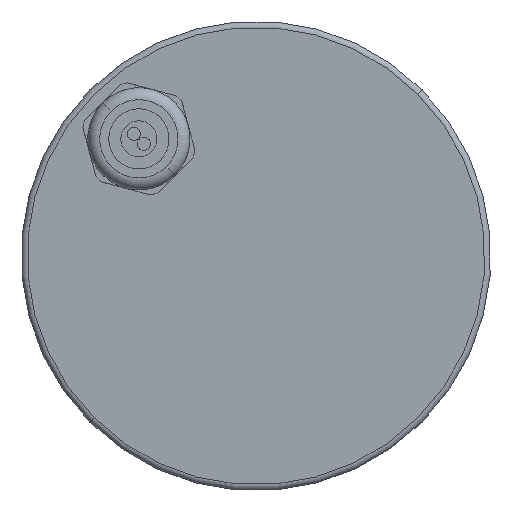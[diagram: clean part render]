
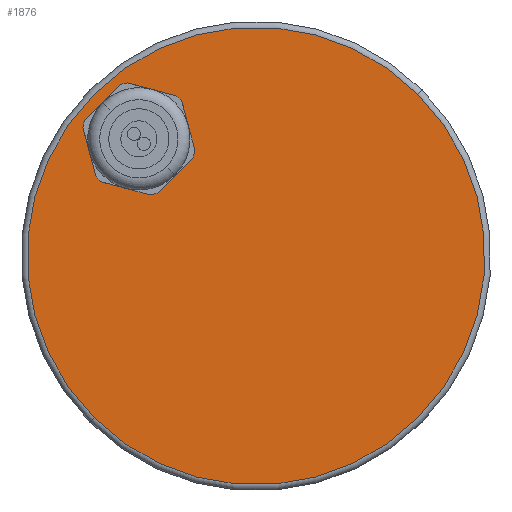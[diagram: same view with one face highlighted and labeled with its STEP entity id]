
A CAD part, left-side view. The second image highlights one B-rep face of the part: STEP entity #1876.
In plain terms, the highlighted planar face has unit normal (-1, 0, 0).
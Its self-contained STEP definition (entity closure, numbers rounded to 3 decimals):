
#37 = CARTESIAN_POINT ( 'NONE',  ( 0., 19.576, 5.24 ) ) ;
#255 = CARTESIAN_POINT ( 'NONE',  ( 0., 26.924, -9.483 ) ) ;
#557 = DIRECTION ( 'NONE',  ( 0., 0., -1. ) ) ;
#592 = CARTESIAN_POINT ( 'NONE',  ( 0., 36., -4.907 ) ) ;
#647 = EDGE_CURVE ( 'NONE', #8767, #5741, #9609, .T. ) ;
#757 = CARTESIAN_POINT ( 'NONE',  ( 0., 19., -4.243 ) ) ;
#867 = ORIENTED_EDGE ( 'NONE', *, *, #12008, .F. ) ;
#1002 = EDGE_CURVE ( 'NONE', #11772, #15497, #9185, .T. ) ;
#1082 = CARTESIAN_POINT ( 'NONE',  ( 0., 19., 4.907 ) ) ;
#1148 = EDGE_CURVE ( 'NONE', #5741, #10588, #3888, .T. ) ;
#1422 = EDGE_CURVE ( 'NONE', #8369, #8767, #14274, .T. ) ;
#1681 = FACE_OUTER_BOUND ( 'NONE', #3885, .T. ) ;
#1809 = ORIENTED_EDGE ( 'NONE', *, *, #10874, .F. ) ;
#1846 = CARTESIAN_POINT ( 'NONE',  ( 0., 27.5, 0. ) ) ;
#1876 = ADVANCED_FACE ( 'NONE', ( #1681, #6239 ), #14335, .F. ) ;
#1977 = CARTESIAN_POINT ( 'NONE',  ( 0., 19., -4.907 ) ) ;
#2075 = CIRCLE ( 'NONE', #3549, 9.5 ) ;
#2243 = EDGE_CURVE ( 'NONE', #10588, #5660, #10577, .T. ) ;
#2248 = DIRECTION ( 'NONE',  ( -1., 0., 0. ) ) ;
#2496 = VECTOR ( 'NONE', #11706, 1000. ) ;
#2572 = CARTESIAN_POINT ( 'NONE',  ( 0., 26.924, 9.483 ) ) ;
#2593 = DIRECTION ( 'NONE',  ( -1., 0., 0. ) ) ;
#2800 = VECTOR ( 'NONE', #11951, 1000. ) ;
#2969 = DIRECTION ( 'NONE',  ( 0., 0., -1. ) ) ;
#3002 = EDGE_CURVE ( 'NONE', #6296, #9381, #12805, .T. ) ;
#3174 = ORIENTED_EDGE ( 'NONE', *, *, #1002, .F. ) ;
#3202 = VERTEX_POINT ( 'NONE', #15883 ) ;
#3277 = AXIS2_PLACEMENT_3D ( 'NONE', #16147, #3390, #9102 ) ;
#3283 = DIRECTION ( 'NONE',  ( 0., -0.866, -0.5 ) ) ;
#3300 = ORIENTED_EDGE ( 'NONE', *, *, #4503, .T. ) ;
#3390 = DIRECTION ( 'NONE',  ( -1., 0., 0. ) ) ;
#3467 = DIRECTION ( 'NONE',  ( 0., -0.866, 0.5 ) ) ;
#3549 = AXIS2_PLACEMENT_3D ( 'NONE', #12313, #2593, #13799 ) ;
#3808 = AXIS2_PLACEMENT_3D ( 'NONE', #7775, #2248, #13618 ) ;
#3885 = EDGE_LOOP ( 'NONE', ( #14178, #3300 ) ) ;
#3888 = CIRCLE ( 'NONE', #3277, 9.5 ) ;
#3993 = CARTESIAN_POINT ( 'NONE',  ( 0., 27.5, 0. ) ) ;
#4503 = EDGE_CURVE ( 'NONE', #7527, #17082, #13669, .T. ) ;
#5526 = ORIENTED_EDGE ( 'NONE', *, *, #11334, .F. ) ;
#5577 = EDGE_LOOP ( 'NONE', ( #12911, #14684, #15582, #867, #11710, #11958, #16612, #5526, #1809, #3174, #8187, #17948 ) ) ;
#5660 = VERTEX_POINT ( 'NONE', #15565 ) ;
#5741 = VERTEX_POINT ( 'NONE', #8422 ) ;
#5746 = AXIS2_PLACEMENT_3D ( 'NONE', #14693, #13326, #557 ) ;
#5897 = AXIS2_PLACEMENT_3D ( 'NONE', #12817, #11338, #8534 ) ;
#5926 = VERTEX_POINT ( 'NONE', #757 ) ;
#6239 = FACE_BOUND ( 'NONE', #5577, .T. ) ;
#6296 = VERTEX_POINT ( 'NONE', #2572 ) ;
#6480 = CIRCLE ( 'NONE', #15690, 9.5 ) ;
#6524 = CIRCLE ( 'NONE', #16931, 9.5 ) ;
#6756 = DIRECTION ( 'NONE',  ( 0., 0., -1. ) ) ;
#6769 = VECTOR ( 'NONE', #16553, 1000. ) ;
#6799 = VECTOR ( 'NONE', #16812, 1000. ) ;
#6814 = CARTESIAN_POINT ( 'NONE',  ( 0., 0., 38. ) ) ;
#7265 = CARTESIAN_POINT ( 'NONE',  ( 0., 19.576, -5.24 ) ) ;
#7527 = VERTEX_POINT ( 'NONE', #6814 ) ;
#7775 = CARTESIAN_POINT ( 'NONE',  ( 0., 0., 0. ) ) ;
#8012 = DIRECTION ( 'NONE',  ( 0., 0., -1. ) ) ;
#8187 = ORIENTED_EDGE ( 'NONE', *, *, #10638, .F. ) ;
#8369 = VERTEX_POINT ( 'NONE', #9915 ) ;
#8422 = CARTESIAN_POINT ( 'NONE',  ( 0., 36., -4.243 ) ) ;
#8491 = CARTESIAN_POINT ( 'NONE',  ( 0., 27.5, 0. ) ) ;
#8534 = DIRECTION ( 'NONE',  ( 0., 0., -1. ) ) ;
#8767 = VERTEX_POINT ( 'NONE', #17467 ) ;
#8798 = DIRECTION ( 'NONE',  ( 0., 0., -1. ) ) ;
#8885 = DIRECTION ( 'NONE',  ( -1., 0., 0. ) ) ;
#9102 = DIRECTION ( 'NONE',  ( 0., 0., -1. ) ) ;
#9185 = LINE ( 'NONE', #10580, #9564 ) ;
#9240 = AXIS2_PLACEMENT_3D ( 'NONE', #8491, #10092, #2969 ) ;
#9381 = VERTEX_POINT ( 'NONE', #13596 ) ;
#9564 = VECTOR ( 'NONE', #3467, 1000. ) ;
#9609 = LINE ( 'NONE', #11177, #6769 ) ;
#9862 = LINE ( 'NONE', #1082, #6799 ) ;
#9915 = CARTESIAN_POINT ( 'NONE',  ( 0., 35.424, 5.24 ) ) ;
#9972 = LINE ( 'NONE', #11509, #2496 ) ;
#10092 = DIRECTION ( 'NONE',  ( -1., 0., 0. ) ) ;
#10577 = LINE ( 'NONE', #592, #17556 ) ;
#10580 = CARTESIAN_POINT ( 'NONE',  ( 0., 27.5, -9.815 ) ) ;
#10588 = VERTEX_POINT ( 'NONE', #13591 ) ;
#10638 = EDGE_CURVE ( 'NONE', #5660, #11772, #6524, .T. ) ;
#10874 = EDGE_CURVE ( 'NONE', #15497, #5926, #6480, .T. ) ;
#10975 = EDGE_CURVE ( 'NONE', #17082, #7527, #13923, .T. ) ;
#11177 = CARTESIAN_POINT ( 'NONE',  ( 0., 36., 4.907 ) ) ;
#11334 = EDGE_CURVE ( 'NONE', #5926, #3202, #14442, .T. ) ;
#11338 = DIRECTION ( 'NONE',  ( -1., 0., 0. ) ) ;
#11509 = CARTESIAN_POINT ( 'NONE',  ( 0., 27.5, 9.815 ) ) ;
#11706 = DIRECTION ( 'NONE',  ( 0., 0.866, -0.5 ) ) ;
#11710 = ORIENTED_EDGE ( 'NONE', *, *, #3002, .F. ) ;
#11772 = VERTEX_POINT ( 'NONE', #255 ) ;
#11951 = DIRECTION ( 'NONE',  ( 0., 0., 1. ) ) ;
#11958 = ORIENTED_EDGE ( 'NONE', *, *, #13497, .F. ) ;
#12008 = EDGE_CURVE ( 'NONE', #9381, #8369, #9972, .T. ) ;
#12204 = AXIS2_PLACEMENT_3D ( 'NONE', #17423, #8885, #8798 ) ;
#12313 = CARTESIAN_POINT ( 'NONE',  ( 0., 27.5, 0. ) ) ;
#12805 = CIRCLE ( 'NONE', #9240, 9.5 ) ;
#12817 = CARTESIAN_POINT ( 'NONE',  ( 0., 0., 0. ) ) ;
#12911 = ORIENTED_EDGE ( 'NONE', *, *, #1148, .F. ) ;
#13326 = DIRECTION ( 'NONE',  ( 1., 0., 0. ) ) ;
#13497 = EDGE_CURVE ( 'NONE', #16462, #6296, #9862, .T. ) ;
#13591 = CARTESIAN_POINT ( 'NONE',  ( 0., 35.424, -5.24 ) ) ;
#13596 = CARTESIAN_POINT ( 'NONE',  ( 0., 28.076, 9.483 ) ) ;
#13618 = DIRECTION ( 'NONE',  ( 0., 0., -1. ) ) ;
#13669 = CIRCLE ( 'NONE', #3808, 38. ) ;
#13799 = DIRECTION ( 'NONE',  ( 0., 0., -1. ) ) ;
#13923 = CIRCLE ( 'NONE', #5897, 38. ) ;
#14178 = ORIENTED_EDGE ( 'NONE', *, *, #10975, .T. ) ;
#14224 = EDGE_CURVE ( 'NONE', #3202, #16462, #2075, .T. ) ;
#14274 = CIRCLE ( 'NONE', #12204, 9.5 ) ;
#14335 = PLANE ( 'NONE',  #5746 ) ;
#14442 = LINE ( 'NONE', #1977, #2800 ) ;
#14684 = ORIENTED_EDGE ( 'NONE', *, *, #647, .F. ) ;
#14693 = CARTESIAN_POINT ( 'NONE',  ( 0., 0., 0. ) ) ;
#15497 = VERTEX_POINT ( 'NONE', #7265 ) ;
#15565 = CARTESIAN_POINT ( 'NONE',  ( 0., 28.076, -9.483 ) ) ;
#15582 = ORIENTED_EDGE ( 'NONE', *, *, #1422, .F. ) ;
#15690 = AXIS2_PLACEMENT_3D ( 'NONE', #1846, #17943, #6756 ) ;
#15883 = CARTESIAN_POINT ( 'NONE',  ( 0., 19., 4.243 ) ) ;
#16147 = CARTESIAN_POINT ( 'NONE',  ( 0., 27.5, 0. ) ) ;
#16462 = VERTEX_POINT ( 'NONE', #37 ) ;
#16553 = DIRECTION ( 'NONE',  ( 0., 0., -1. ) ) ;
#16612 = ORIENTED_EDGE ( 'NONE', *, *, #14224, .F. ) ;
#16812 = DIRECTION ( 'NONE',  ( 0., 0.866, 0.5 ) ) ;
#16931 = AXIS2_PLACEMENT_3D ( 'NONE', #3993, #18138, #8012 ) ;
#17082 = VERTEX_POINT ( 'NONE', #18260 ) ;
#17423 = CARTESIAN_POINT ( 'NONE',  ( 0., 27.5, 0. ) ) ;
#17467 = CARTESIAN_POINT ( 'NONE',  ( 0., 36., 4.243 ) ) ;
#17556 = VECTOR ( 'NONE', #3283, 1000. ) ;
#17943 = DIRECTION ( 'NONE',  ( -1., 0., 0. ) ) ;
#17948 = ORIENTED_EDGE ( 'NONE', *, *, #2243, .F. ) ;
#18138 = DIRECTION ( 'NONE',  ( -1., 0., 0. ) ) ;
#18260 = CARTESIAN_POINT ( 'NONE',  ( 0., 0., -38. ) ) ;
